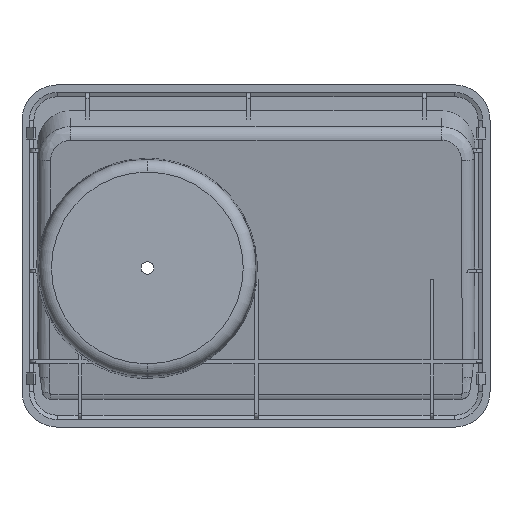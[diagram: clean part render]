
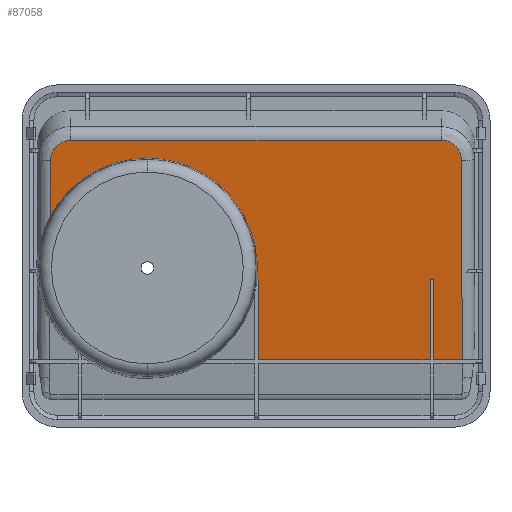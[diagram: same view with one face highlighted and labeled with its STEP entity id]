
A CAD part, front view. The second image highlights one B-rep face of the part: STEP entity #87058.
In plain terms, the highlighted planar face has unit normal (0, -0.988, -0.156).
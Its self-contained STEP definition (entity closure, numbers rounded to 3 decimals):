
#2263 = CARTESIAN_POINT ( 'NONE',  ( -378.896, 755.446, 203.902 ) ) ;
#3365 = VERTEX_POINT ( 'NONE', #90153 ) ;
#4566 =( BOUNDED_CURVE ( )  B_SPLINE_CURVE ( 3, ( #37483, #94782, #6327, #45148 ),
 .UNSPECIFIED., .F., .F. ) 
 B_SPLINE_CURVE_WITH_KNOTS ( ( 4, 4 ),
 ( 3.142, 4.22 ),
 .UNSPECIFIED. ) 
 CURVE ( )  GEOMETRIC_REPRESENTATION_ITEM ( )  RATIONAL_B_SPLINE_CURVE ( ( 1., 0.905, 0.905, 1. ) ) 
 REPRESENTATION_ITEM ( '' )  );
#5801 = LINE ( 'NONE', #7712, #55312 ) ;
#6096 = CARTESIAN_POINT ( 'NONE',  ( -461.461, 760.697, 170.75 ) ) ;
#6327 = CARTESIAN_POINT ( 'NONE',  ( -453.643, 758.389, 185.322 ) ) ;
#6661 = EDGE_CURVE ( 'NONE', #87928, #100175, #102867, .T. ) ;
#6751 = CARTESIAN_POINT ( 'NONE',  ( -376.659, 760.293, 173.299 ) ) ;
#7712 = CARTESIAN_POINT ( 'NONE',  ( -298.129, 755.361, 204.438 ) ) ;
#10741 = ORIENTED_EDGE ( 'NONE', *, *, #28426, .F. ) ;
#11041 = VECTOR ( 'NONE', #50183, 1000. ) ;
#13256 = DIRECTION ( 'NONE',  ( -1., 0., 0. ) ) ;
#13624 = VERTEX_POINT ( 'NONE', #121131 ) ;
#13858 = CARTESIAN_POINT ( 'NONE',  ( -309.054, 764.655, 145.757 ) ) ;
#14671 = CARTESIAN_POINT ( 'NONE',  ( -461.369, 757.187, 192.906 ) ) ;
#15963 = CARTESIAN_POINT ( 'NONE',  ( -453.419, 755.903, 201.013 ) ) ;
#17796 = EDGE_CURVE ( 'NONE', #71775, #41996, #5801, .T. ) ;
#19108 = CARTESIAN_POINT ( 'NONE',  ( -310.554, 755.446, 203.902 ) ) ;
#20132 = CARTESIAN_POINT ( 'NONE',  ( -298.081, 757.187, 192.906 ) ) ;
#20403 = DIRECTION ( 'NONE',  ( -1., 0., 0. ) ) ;
#22528 = VERTEX_POINT ( 'NONE', #106156 ) ;
#22829 = CARTESIAN_POINT ( 'NONE',  ( -395.24, 757.044, 193.812 ) ) ;
#23412 = DIRECTION ( 'NONE',  ( -1., 0., 0. ) ) ;
#24218 = VERTEX_POINT ( 'NONE', #41057 ) ;
#24482 = DIRECTION ( 'NONE',  ( -1., 0., 0. ) ) ;
#26541 = EDGE_CURVE ( 'NONE', #24218, #117354, #50309, .T. ) ;
#28170 = VECTOR ( 'NONE', #92712, 1000. ) ;
#28426 = EDGE_CURVE ( 'NONE', #90511, #117354, #74310, .T. ) ;
#33532 = CARTESIAN_POINT ( 'NONE',  ( -328.804, 755.446, 203.902 ) ) ;
#35434 = EDGE_CURVE ( 'NONE', #3365, #22528, #117173, .T. ) ;
#35990 = ORIENTED_EDGE ( 'NONE', *, *, #115234, .F. ) ;
#37205 = VERTEX_POINT ( 'NONE', #67584 ) ;
#37211 = ORIENTED_EDGE ( 'NONE', *, *, #6661, .T. ) ;
#37483 = CARTESIAN_POINT ( 'NONE',  ( -422.917, 757.044, 193.812 ) ) ;
#37998 = ORIENTED_EDGE ( 'NONE', *, *, #78187, .T. ) ;
#39995 = CARTESIAN_POINT ( 'NONE',  ( -309.054, 771.261, 104.046 ) ) ;
#41057 = CARTESIAN_POINT ( 'NONE',  ( -310.554, 769.737, 113.668 ) ) ;
#41580 = ORIENTED_EDGE ( 'NONE', *, *, #103541, .F. ) ;
#41814 = DIRECTION ( 'NONE',  ( 0., 0.988, 0.156 ) ) ;
#41996 = VERTEX_POINT ( 'NONE', #61573 ) ;
#42120 =( BOUNDED_CURVE ( )  B_SPLINE_CURVE ( 3, ( #83810, #6751, #22829, #119626 ),
 .UNSPECIFIED., .F., .F. ) 
 B_SPLINE_CURVE_WITH_KNOTS ( ( 4, 4 ),
 ( 1.472, 3.142 ),
 .UNSPECIFIED. ) 
 CURVE ( )  GEOMETRIC_REPRESENTATION_ITEM ( )  RATIONAL_B_SPLINE_CURVE ( ( 1., 0.781, 0.781, 1. ) ) 
 REPRESENTATION_ITEM ( '' )  );
#42558 = CARTESIAN_POINT ( 'NONE',  ( -471.017, 769.737, 113.668 ) ) ;
#43368 =( BOUNDED_CURVE ( )  B_SPLINE_CURVE ( 3, ( #20132, #97157, #48170, #107962 ),
 .UNSPECIFIED., .F., .T. ) 
 B_SPLINE_CURVE_WITH_KNOTS ( ( 4, 4 ),
 ( 1.668, 3.228 ),
 .UNSPECIFIED. ) 
 CURVE ( )  GEOMETRIC_REPRESENTATION_ITEM ( )  RATIONAL_B_SPLINE_CURVE ( ( 1., 0.807, 0.807, 1. ) ) 
 REPRESENTATION_ITEM ( '' )  );
#43545 = ORIENTED_EDGE ( 'NONE', *, *, #70318, .F. ) ;
#45148 = CARTESIAN_POINT ( 'NONE',  ( -461.461, 760.697, 170.75 ) ) ;
#46929 = CARTESIAN_POINT ( 'NONE',  ( -306.031, 755.903, 201.013 ) ) ;
#48170 = CARTESIAN_POINT ( 'NONE',  ( -301.383, 755.903, 201.013 ) ) ;
#48874 = VERTEX_POINT ( 'NONE', #90416 ) ;
#49340 = ORIENTED_EDGE ( 'NONE', *, *, #17796, .T. ) ;
#50183 = DIRECTION ( 'NONE',  ( 0., -0.156, 0.988 ) ) ;
#50309 = LINE ( 'NONE', #19108, #73272 ) ;
#51278 = DIRECTION ( 'NONE',  ( 0., -0.156, 0.988 ) ) ;
#52424 = EDGE_CURVE ( 'NONE', #37205, #3365, #70386, .T. ) ;
#52586 = VECTOR ( 'NONE', #73042, 1000. ) ;
#55312 = VECTOR ( 'NONE', #104424, 1000. ) ;
#55616 = CARTESIAN_POINT ( 'NONE',  ( -461.369, 757.187, 192.906 ) ) ;
#61573 = CARTESIAN_POINT ( 'NONE',  ( -298.081, 757.187, 192.906 ) ) ;
#62454 = VERTEX_POINT ( 'NONE', #80962 ) ;
#62580 = ORIENTED_EDGE ( 'NONE', *, *, #89760, .T. ) ;
#62852 = FACE_OUTER_BOUND ( 'NONE', #126008, .T. ) ;
#62924 = CARTESIAN_POINT ( 'NONE',  ( -322.804, 769.737, 113.668 ) ) ;
#66018 = CARTESIAN_POINT ( 'NONE',  ( -692.782, 764.655, 145.757 ) ) ;
#67584 = CARTESIAN_POINT ( 'NONE',  ( -378.896, 769.737, 113.668 ) ) ;
#70318 = EDGE_CURVE ( 'NONE', #13624, #90511, #88379, .T. ) ;
#70386 = LINE ( 'NONE', #2263, #81288 ) ;
#70846 = EDGE_CURVE ( 'NONE', #48874, #100175, #4566, .T. ) ;
#71020 = LINE ( 'NONE', #91363, #74617 ) ;
#71775 = VERTEX_POINT ( 'NONE', #96984 ) ;
#72504 = ORIENTED_EDGE ( 'NONE', *, *, #52424, .F. ) ;
#73042 = DIRECTION ( 'NONE',  ( -1., 0., 0. ) ) ;
#73272 = VECTOR ( 'NONE', #125470, 1000. ) ;
#73563 = VERTEX_POINT ( 'NONE', #46929 ) ;
#74310 = LINE ( 'NONE', #66018, #52586 ) ;
#74617 = VECTOR ( 'NONE', #24482, 1000. ) ;
#78187 = EDGE_CURVE ( 'NONE', #41996, #73563, #43368, .T. ) ;
#79694 = ORIENTED_EDGE ( 'NONE', *, *, #26541, .T. ) ;
#80145 = LINE ( 'NONE', #42558, #84853 ) ;
#80685 = DIRECTION ( 'NONE',  ( -1., 0., 0. ) ) ;
#80962 = CARTESIAN_POINT ( 'NONE',  ( -453.419, 755.903, 201.013 ) ) ;
#81288 = VECTOR ( 'NONE', #51278, 1000. ) ;
#83419 =( BOUNDED_CURVE ( )  B_SPLINE_CURVE ( 3, ( #15963, #93597, #122271, #14671 ),
 .UNSPECIFIED., .F., .F. ) 
 B_SPLINE_CURVE_WITH_KNOTS ( ( 4, 4 ),
 ( 1.668, 3.228 ),
 .UNSPECIFIED. ) 
 CURVE ( )  GEOMETRIC_REPRESENTATION_ITEM ( )  RATIONAL_B_SPLINE_CURVE ( ( 1., 0.807, 0.807, 1. ) ) 
 REPRESENTATION_ITEM ( '' )  );
#83810 = CARTESIAN_POINT ( 'NONE',  ( -379.389, 764.655, 145.757 ) ) ;
#84853 = VECTOR ( 'NONE', #13256, 1000. ) ;
#86388 = ORIENTED_EDGE ( 'NONE', *, *, #35434, .F. ) ;
#87058 = ADVANCED_FACE ( 'NONE', ( #62852 ), #101621, .F. ) ;
#87928 = VERTEX_POINT ( 'NONE', #55616 ) ;
#88379 = LINE ( 'NONE', #39995, #11041 ) ;
#88487 = AXIS2_PLACEMENT_3D ( 'NONE', #33532, #41814, #80685 ) ;
#89760 = EDGE_CURVE ( 'NONE', #73563, #62454, #71020, .T. ) ;
#90153 = CARTESIAN_POINT ( 'NONE',  ( -378.896, 764.655, 145.757 ) ) ;
#90416 = CARTESIAN_POINT ( 'NONE',  ( -422.917, 757.044, 193.812 ) ) ;
#90511 = VERTEX_POINT ( 'NONE', #13858 ) ;
#91363 = CARTESIAN_POINT ( 'NONE',  ( -328.804, 755.903, 201.013 ) ) ;
#92712 = DIRECTION ( 'NONE',  ( -0.004, 0.156, -0.988 ) ) ;
#93597 = CARTESIAN_POINT ( 'NONE',  ( -458.067, 755.903, 201.013 ) ) ;
#94782 = CARTESIAN_POINT ( 'NONE',  ( -439.453, 757.044, 193.812 ) ) ;
#94842 = EDGE_CURVE ( 'NONE', #71775, #13624, #119574, .T. ) ;
#96984 = CARTESIAN_POINT ( 'NONE',  ( -297.752, 769.737, 113.668 ) ) ;
#97157 = CARTESIAN_POINT ( 'NONE',  ( -298.101, 756.434, 197.665 ) ) ;
#100175 = VERTEX_POINT ( 'NONE', #6096 ) ;
#101621 = PLANE ( 'NONE',  #88487 ) ;
#102867 = LINE ( 'NONE', #123286, #28170 ) ;
#103541 = EDGE_CURVE ( 'NONE', #24218, #37205, #80145, .T. ) ;
#103743 = ORIENTED_EDGE ( 'NONE', *, *, #70846, .F. ) ;
#104424 = DIRECTION ( 'NONE',  ( -0.004, -0.156, 0.988 ) ) ;
#106156 = CARTESIAN_POINT ( 'NONE',  ( -379.389, 764.655, 145.757 ) ) ;
#107636 = CARTESIAN_POINT ( 'NONE',  ( -328.804, 764.655, 145.757 ) ) ;
#107962 = CARTESIAN_POINT ( 'NONE',  ( -306.031, 755.903, 201.013 ) ) ;
#108395 = EDGE_CURVE ( 'NONE', #62454, #87928, #83419, .T. ) ;
#108715 = CARTESIAN_POINT ( 'NONE',  ( -310.554, 764.655, 145.757 ) ) ;
#110682 = ORIENTED_EDGE ( 'NONE', *, *, #108395, .T. ) ;
#110772 = ORIENTED_EDGE ( 'NONE', *, *, #94842, .F. ) ;
#111134 = VECTOR ( 'NONE', #23412, 1000. ) ;
#115234 = EDGE_CURVE ( 'NONE', #22528, #48874, #42120, .T. ) ;
#117173 = LINE ( 'NONE', #107636, #117866 ) ;
#117354 = VERTEX_POINT ( 'NONE', #108715 ) ;
#117866 = VECTOR ( 'NONE', #20403, 1000. ) ;
#119574 = LINE ( 'NONE', #62924, #111134 ) ;
#119626 = CARTESIAN_POINT ( 'NONE',  ( -422.917, 757.044, 193.812 ) ) ;
#121131 = CARTESIAN_POINT ( 'NONE',  ( -309.054, 769.737, 113.668 ) ) ;
#122271 = CARTESIAN_POINT ( 'NONE',  ( -461.349, 756.434, 197.665 ) ) ;
#123286 = CARTESIAN_POINT ( 'NONE',  ( -461.321, 755.361, 204.438 ) ) ;
#125470 = DIRECTION ( 'NONE',  ( 0., -0.156, 0.988 ) ) ;
#126008 = EDGE_LOOP ( 'NONE', ( #37211, #103743, #35990, #86388, #72504, #41580, #79694, #10741, #43545, #110772, #49340, #37998, #62580, #110682 ) ) ;
